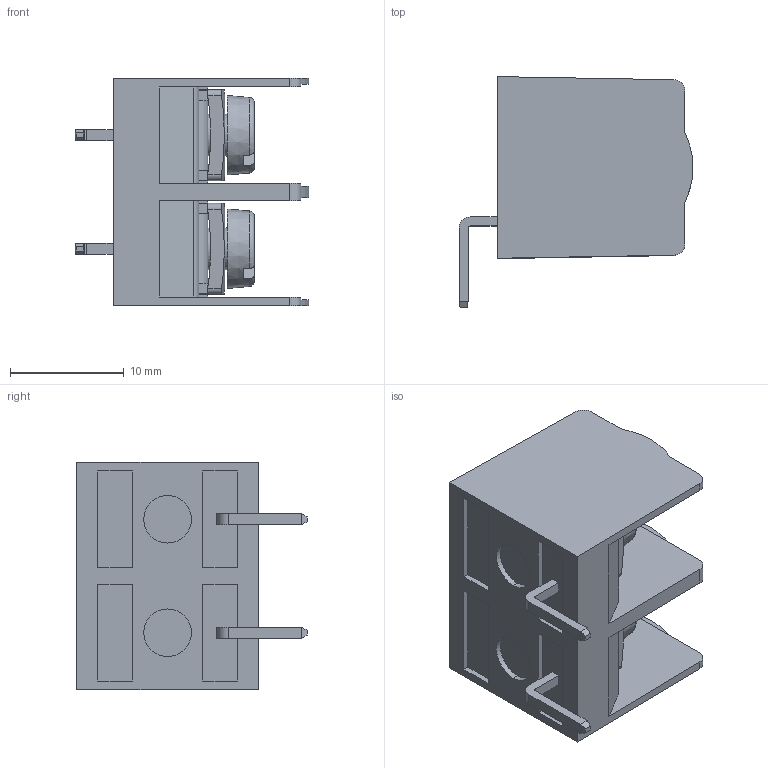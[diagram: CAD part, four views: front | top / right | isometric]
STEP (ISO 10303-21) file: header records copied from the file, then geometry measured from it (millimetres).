
FILE_DESCRIPTION (( 'STEP AP203' ), '1' );
FILE_NAME ('983-W-02.STEP', '2019-01-17T04:45:03', ( '' ), ( '' ), 'SwSTEP 2.0', 'SolidWorks 2016', '' );
FILE_SCHEMA (( 'CONFIG_CONTROL_DESIGN' ));
Length unit declared in the file: millimetre
Products named in the file (1): 983-W-02
Bounding box: 20.6 x 20.3 x 20 mm (x, y, z)
Volume: 3045.5 mm3; surface area: 2956.7 mm2
Topology: 1 solids, 3 shells, 251 faces, 752 edges, 490 vertices
Faces by surface type: plane 172, cylinder 49, torus 22, cone 8
Entity records: 8805 total; most frequent: CARTESIAN_POINT 1910, ORIENTED_EDGE 1504, DIRECTION 1338, EDGE_CURVE 752, VECTOR 494, LINE 494, VERTEX_POINT 490, AXIS2_PLACEMENT_3D 422
